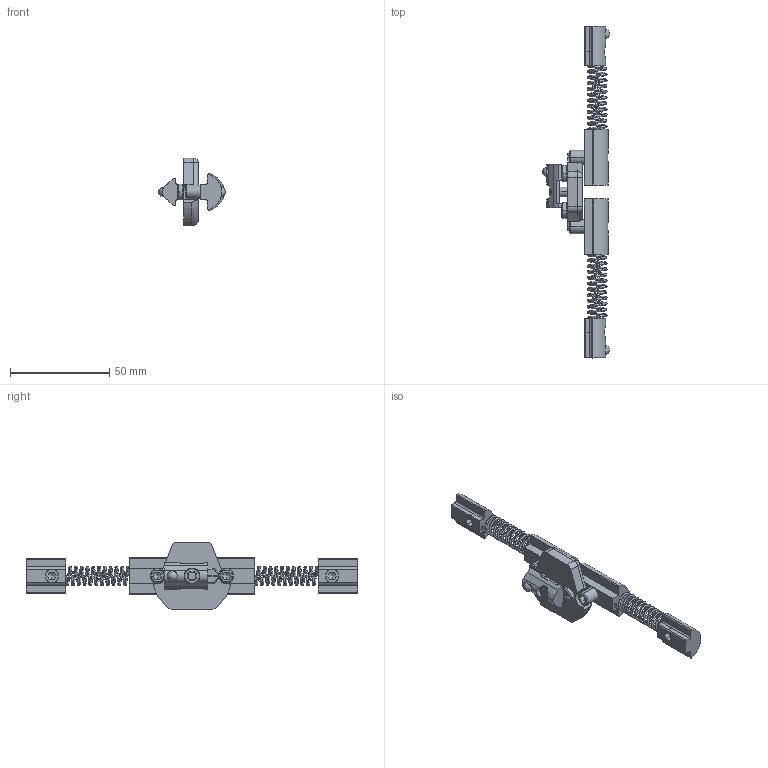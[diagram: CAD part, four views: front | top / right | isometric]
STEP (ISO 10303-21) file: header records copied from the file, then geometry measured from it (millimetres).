
FILE_DESCRIPTION (( 'STEP AP203' ), '1' );
FILE_NAME ('50147_TUER40.STEP', '2018-05-17T09:25:14', ( '' ), ( '' ), 'SwSTEP 2.0', 'SolidWorks 2017', '' );
FILE_SCHEMA (( 'CONFIG_CONTROL_DESIGN' ));
Length unit declared in the file: millimetre
Products named in the file (17): MK2402100_A; MK5100015; DIN 913 - M8 x 10; 50147_TUER40; SV2002V_A; MK2402100; SV2147S_A; SS9900V_A; ME7700013_A; ME7700010_A; ME1800005_A; MK5104021_A; DIN 6912 - M5 x 12; ME1630104_A; MK1630105; MK5100000_A; MK1630202
Assembly tree (22 placements, depth 3):
  50147_TUER40
    ME7700013_A
    ME1800005_A  x2
    DIN 6912 - M5 x 12
    SV2147S_A
      MK1630105
      MK1630202
      MK5100015
      MK2402100
    SS9900V_A  x2
    ME7700010_A  x2
    MK5104021_A  x2
    SV2002V_A  x2
      ME1630104_A
      MK5100000_A
      MK2402100_A
    DIN 913 - M8 x 10  x2
Bounding box: 33.48 x 167 x 34 mm (x, y, z)
Volume: 22169.5 mm3; surface area: 16154.2 mm2
Topology: 22 solids, 22 shells, 382 faces, 928 edges, 580 vertices
Faces by surface type: plane 149, cylinder 131, cone 60, torus 24, bspline 12, sphere 6
Entity records: 18125 total; most frequent: CARTESIAN_POINT 10094, DIRECTION 1326, ORIENTED_EDGE 1226, EDGE_CURVE 613, AXIS2_PLACEMENT_3D 517, VERTEX_POINT 391, LINE 292, VECTOR 292
